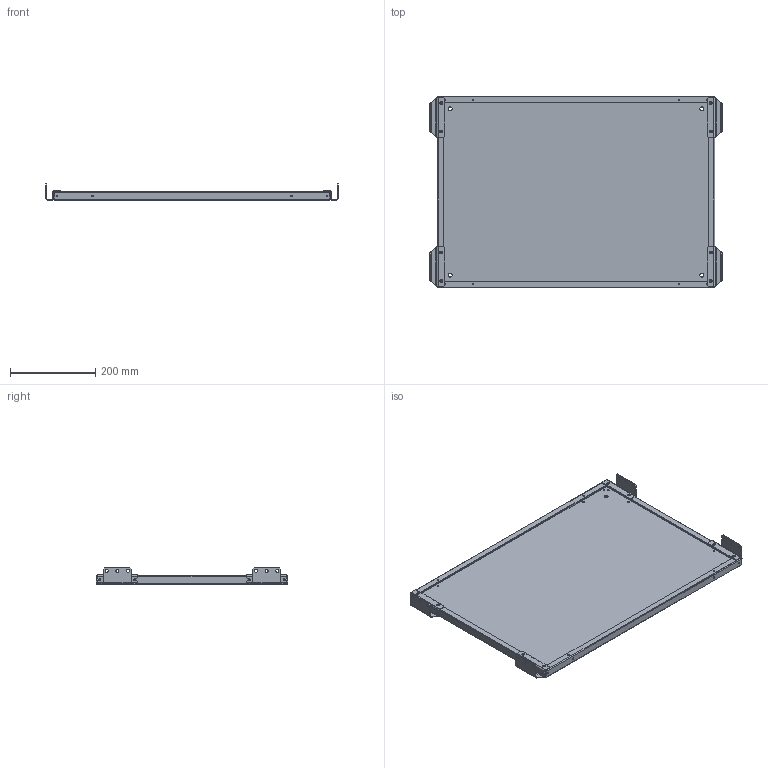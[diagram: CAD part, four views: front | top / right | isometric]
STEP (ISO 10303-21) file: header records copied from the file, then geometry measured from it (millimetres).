
FILE_DESCRIPTION (( 'STEP AP203' ), '1' );
FILE_NAME ('MP 65.45 M Ïàíåëü ìîíòàæíàÿ ñåêöèîííàÿ.STEP', '2013-01-09T13:35:40', ( 'System' ), ( '' ), 'SwSTEP 2.0', 'SolidWorks 2012', '' );
FILE_SCHEMA (( 'CONFIG_CONTROL_DESIGN' ));
Length unit declared in the file: millimetre
Products named in the file (1): MP 65.45 M Ïàíåëü ìîíòàæíàÿ ñåêöèîííàÿ
Bounding box: 685 x 450 x 37.75 mm (x, y, z)
Volume: 766901.9 mm3; surface area: 776204.2 mm2
Topology: 5 solids, 5 shells, 388 faces, 1016 edges, 632 vertices
Faces by surface type: cylinder 196, plane 168, bspline 16, sphere 8
Entity records: 12713 total; most frequent: CARTESIAN_POINT 2749, DIRECTION 2050, ORIENTED_EDGE 2016, EDGE_CURVE 1008, AXIS2_PLACEMENT_3D 733, VERTEX_POINT 632, LINE 584, VECTOR 584
